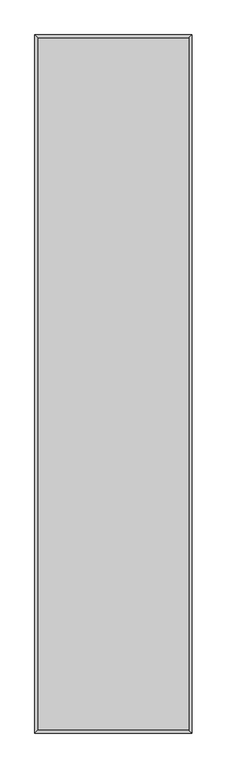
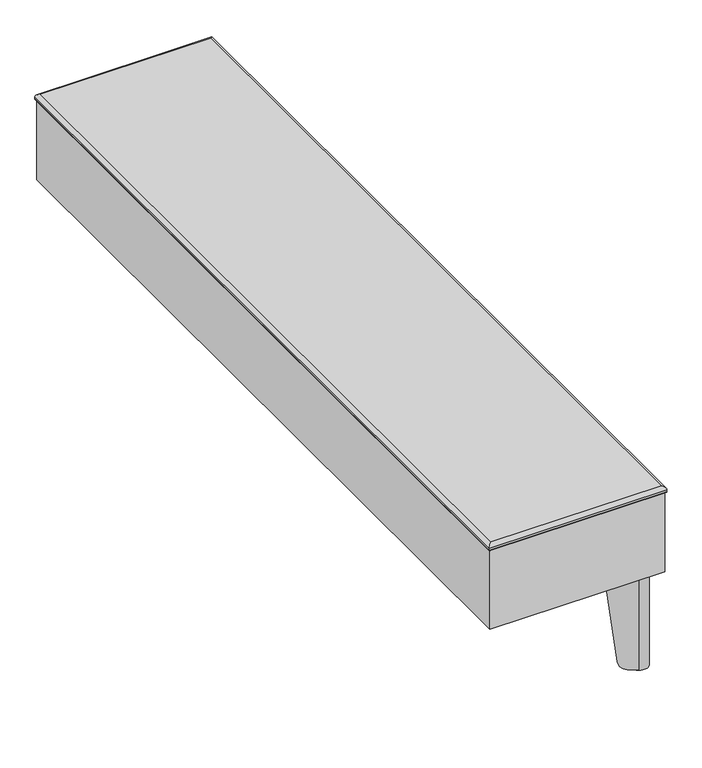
"""IFC4 building model written with IfcOpenShell, lengths in millimetres: furniture geometry, Stance_HC-Flora-Table_Straight : FAT135614E-S."""

from ifc_helpers import new_model, si_unit, point, frame, frame_2d, origin, origin_with_axes, place, context, project, spatial, polyline, circle_curve, ellipse_curve, trimmed, segment, composite_curve, outline, extrude, source, transform, mapped, element, save
from ifc_brep_helpers import plane_surface, cylinder_surface, revolved_surface, advanced_brep


def furniture_4275ec75(model_context):
    return source(origin(), model_context, "Body", "SolidModel", [
        advanced_brep(
        [(274.3401042, -102.8613619, 193.6877233), (306.2642107, -57.26919, 193.6877233), (285.6391871, -36.6441664, 193.6877233), (240.0470178, -68.568271, 193.6877233), (241.8906556, -71.2012484, 193.6877233), (287.4828248, -39.2771437, 193.6877233), (303.6312333, -55.4255523, 193.6877233), (271.7071268, -101.0177242, 193.6877233), (274.3401042, -102.8613619, 189.1419595), (303.6312333, -55.4255523, 3.1876992), (293.5105238, -69.8793673, 3.1876992), (284.3334277, -82.9855678, 17.1280233), (287.4828248, -39.2771437, 3.1876992), (259.9228092, -58.5749494, 17.1280233), (273.0290098, -49.3978533, 3.1876992), (240.0470178, -68.568271, 189.1419334), (285.6391871, -36.6441664, 3.1876992), (270.7211121, -47.0899556, 3.1876992), (257.6149115, -56.2670517, 17.1280233), (306.2642107, -57.26919, 3.1876992), (286.6413254, -85.2934656, 17.1280233), (295.8184215, -72.187265, 3.1876992)],
        [
            (0, 1),
            (1, 2, circle_curve(frame((294.1333442, -48.7750329, 193.6877233), z_axis=(0.0, 0.0, 1.0), x_axis=(-1.0, 0.0, 0.0)), 14.8090724)),
            (2, 3),
            (3, 4),
            (4, 5),
            (5, 6, circle_curve(frame((294.1333442, -48.7750329, 193.6877233), z_axis=(0.0, 0.0, -1.0), x_axis=(-1.0, 0.0, 0.0)), 11.5947965)),
            (6, 7),
            (7, 0),
            (7, 8),
            (8, 0),
            (6, 9),
            (9, 10),
            (10, 11, ellipse_curve(frame((293.5105238, -69.8793673, 19.0626992), z_axis=(-0.8191509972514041, 0.5735779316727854, 0.0), x_axis=(-0.5735779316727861, -0.8191509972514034, 0.0)), 16.1198923, 15.875)),
            (11, 7),
            (5, 12),
            (12, 9, circle_curve(frame((294.1333442, -48.7750329, 3.1876992), z_axis=(0.0, 0.0, -1.0), x_axis=(-1.0, 0.0, 0.0)), 11.5947965)),
            (4, 13),
            (13, 14, ellipse_curve(frame((273.0290098, -49.3978533, 19.0626992), z_axis=(0.5735779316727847, -0.8191509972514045, 0.0), x_axis=(0.8191509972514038, 0.5735779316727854, 0.0)), 16.1198923, 15.875)),
            (14, 12),
            (3, 15),
            (15, 4),
            (2, 16),
            (16, 17),
            (17, 18, ellipse_curve(frame((270.7211121, -47.0899556, 19.0626992), z_axis=(-0.5735779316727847, 0.8191509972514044, 0.0), x_axis=(0.8191509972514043, 0.573577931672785, 0.0)), 16.1198923, 15.875)),
            (18, 15),
            (1, 19),
            (19, 16, circle_curve(frame((294.1333442, -48.7750329, 3.1876992), z_axis=(0.0, 0.0, 1.0), x_axis=(-1.0, 0.0, 0.0)), 14.8090724)),
            (8, 20),
            (20, 21, ellipse_curve(frame((295.8184215, -72.187265, 19.0626992), z_axis=(0.8191509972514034, -0.5735779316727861, 0.0), x_axis=(-0.5735779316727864, -0.8191509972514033, 0.0)), 16.1198923, 15.875)),
            (21, 19),
            (18, 13),
            (11, 20),
            (21, 10),
            (14, 17),
        ],
        [
            plane_surface(frame((271.7071268, -101.0177242, 193.6877233), z_axis=(0.0, 0.0, 1.0000000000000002), x_axis=(-0.8191509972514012, 0.5735779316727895, 0.0))),
            plane_surface(frame((274.3401042, -102.8613619, 193.6877233), z_axis=(-0.5735779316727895, -0.8191509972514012, 0.0), x_axis=(0.0, 0.0, -1.0))),
            plane_surface(frame((271.7071268, -101.0177242, 193.6877233), z_axis=(-0.8191509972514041, 0.5735779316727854, 0.0), x_axis=(0.0, 0.0, -1.0))),
            revolved_surface(polyline([(282.53854770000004, -48.7750329, 3.1876992), (282.53854770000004, -48.7750329, 193.6877233)]), (294.1333442, -48.7750329, 0.0), (0.0, 0.0, -1.0)),
            plane_surface(frame((287.4828248, -39.2771437, 193.6877233), z_axis=(0.5735779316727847, -0.8191509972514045, 0.0), x_axis=(0.0, 0.0, -1.0))),
            plane_surface(frame((241.8906556, -71.2012484, 193.6877233), z_axis=(-0.8191509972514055, -0.5735779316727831, 0.0), x_axis=(0.0, 0.0, -1.0))),
            plane_surface(frame((240.0470178, -68.568271, 193.6877233), z_axis=(-0.5735779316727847, 0.8191509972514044, 0.0), x_axis=(0.0, 0.0, -1.0))),
            cylinder_surface(frame((294.1333442, -48.7750329, 0.0), z_axis=(0.0, 0.0, 1.0), x_axis=(-1.0, 0.0, 0.0)), 14.8090724),
            plane_surface(frame((306.2642107, -57.26919, 193.6877233), z_axis=(0.8191509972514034, -0.5735779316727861, 0.0), x_axis=(0.0, 0.0, -1.0))),
            plane_surface(frame((251.7311084, -50.3832485, 17.1280233), z_axis=(-0.7018361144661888, -0.7018361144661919, -0.12186934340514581), x_axis=(0.7071067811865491, -0.707106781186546, 0.0))),
            plane_surface(frame((284.2214639, -17.8928931, 3.1876992), z_axis=(0.0, 0.0, -1.0), x_axis=(0.707106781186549, -0.707106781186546, 0.0))),
            cylinder_surface(frame((303.6583998, -80.0272433, 19.0626992), z_axis=(0.7071067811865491, -0.707106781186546, 0.0), x_axis=(-0.707106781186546, -0.7071067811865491, 0.0)), 15.875),
        ],
        [
            (0, [[1, 2, 3, 4, 5, 6, 7, 8]]),
            (1, [[9, 10, -8]]),
            (2, [[11, 12, 13, 14, -7]]),
            (3, [[15, 16, -11, -6]]),
            (4, [[17, 18, 19, -15, -5]]),
            (5, [[20, 21, -4]]),
            (6, [[22, 23, 24, 25, -20, -3]]),
            (7, [[26, 27, -22, -2]]),
            (8, [[-10, 28, 29, 30, -26, -1]]),
            (9, [[-17, -21, -25, 31]]),
            (9, [[-28, -9, -14, 32]]),
            (10, [[-23, -27, -30, 33, -12, -16, -19, 34]]),
            (11, [[-13, -33, -29, -32]]),
            (11, [[-24, -34, -18, -31]]),
        ],
    ),
        extrude(outline(composite_curve([segment(trimmed(circle_curve(frame_2d((292.1, -50.8)), 11.1125), [point((303.2125, -50.8))], [point((280.9875, -50.8))], False, "CARTESIAN"), True, "CONTINUOUS"), segment(trimmed(circle_curve(frame_2d((292.1, -50.8)), 11.1125), [point((280.9875, -50.8))], [point((303.2125, -50.8))], False, "CARTESIAN"), True, "CONTINUOUS")], self_intersect=False)), origin_with_axes(), (0.0, 0.0, 1.0), 3.175),
        extrude(outline(composite_curve([segment(trimmed(circle_curve(frame_2d((295.4524523, -47.4559239)), 15.8749964), [point((294.3450687, -31.6195983))], [point((311.288778, -48.5633073))], False, "CARTESIAN"), True, "CONTINUOUS"), segment(polyline([(311.288778, -48.5633073), (304.2918062, -148.6247029), (274.4414324, -178.4750713), (190.4983323, -152.4100523), (164.4332978, -68.4669439), (194.2836699, -38.6165718), (294.3450687, -31.6195983)]), True, "CONTINUOUS")], self_intersect=False)), frame((0.0, 0.0, 193.6877233), z_axis=(0.0, 0.0, 1.0), x_axis=(1.0, 0.0, 0.0)), (0.0, 0.0, 1.0), 4.7751809),
        advanced_brep(
        [(274.3401042, -1344.9386381, 193.6877233), (271.7071268, -1346.7822758, 193.6877233), (303.6312333, -1392.3744477, 193.6877233), (287.4828248, -1408.5228563, 193.6877233), (241.8906556, -1376.5987516, 193.6877233), (240.0470178, -1379.231729, 193.6877233), (285.6391871, -1411.1558336, 193.6877233), (306.2642107, -1390.53081, 193.6877233), (274.3401042, -1344.9386381, 189.1419595), (284.3334277, -1364.8144322, 17.1280233), (293.5105238, -1377.9206327, 3.1876992), (303.6312333, -1392.3744477, 3.1876992), (287.4828248, -1408.5228563, 3.1876992), (273.0290098, -1398.4021467, 3.1876992), (259.9228092, -1389.2250506, 17.1280233), (240.0470178, -1379.231729, 189.1419334), (257.6149115, -1391.5329483, 17.1280233), (270.7211121, -1400.7100444, 3.1876992), (285.6391871, -1411.1558336, 3.1876992), (306.2642107, -1390.53081, 3.1876992), (295.8184215, -1375.612735, 3.1876992), (286.6413254, -1362.5065344, 17.1280233)],
        [
            (0, 1),
            (1, 2),
            (2, 3, circle_curve(frame((294.1333442, -1399.0249671, 193.6877233), z_axis=(0.0, 0.0, -1.0), x_axis=(-1.0, 0.0, 0.0)), 11.5947965)),
            (3, 4),
            (4, 5),
            (5, 6),
            (6, 7, circle_curve(frame((294.1333442, -1399.0249671, 193.6877233), z_axis=(0.0, 0.0, 1.0), x_axis=(-1.0, 0.0, 0.0)), 14.8090724)),
            (7, 0),
            (0, 8),
            (8, 1),
            (1, 9),
            (9, 10, ellipse_curve(frame((293.5105238, -1377.9206327, 19.0626992), z_axis=(-0.8191509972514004, -0.5735779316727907, 0.0), x_axis=(-0.5735779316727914, 0.8191509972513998, 0.0)), 16.1198923, 15.875)),
            (10, 11),
            (11, 2),
            (11, 12, circle_curve(frame((294.1333442, -1399.0249671, 3.1876992), z_axis=(0.0, 0.0, -1.0), x_axis=(-1.0, 0.0, 0.0)), 11.5947965)),
            (12, 3),
            (12, 13),
            (13, 14, ellipse_curve(frame((273.0290098, -1398.4021467, 19.0626992), z_axis=(0.5735779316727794, 0.8191509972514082, 0.0), x_axis=(0.8191509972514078, -0.5735779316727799, 0.0)), 16.1198923, 15.875)),
            (14, 4),
            (4, 15),
            (15, 5),
            (15, 16),
            (16, 17, ellipse_curve(frame((270.7211121, -1400.7100444, 19.0626992), z_axis=(-0.5735779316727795, -0.8191509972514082, 0.0), x_axis=(0.8191509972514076, -0.5735779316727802, 0.0)), 16.1198923, 15.875)),
            (17, 18),
            (18, 6),
            (18, 19, circle_curve(frame((294.1333442, -1399.0249671, 3.1876992), z_axis=(0.0, 0.0, 1.0), x_axis=(-1.0, 0.0, 0.0)), 14.8090724)),
            (19, 7),
            (19, 20),
            (20, 21, ellipse_curve(frame((295.8184215, -1375.612735, 19.0626992), z_axis=(0.8191509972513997, 0.5735779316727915, 0.0), x_axis=(-0.573577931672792, 0.8191509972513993, 0.0)), 16.1198923, 15.875)),
            (21, 8),
            (14, 16),
            (21, 9),
            (17, 13),
            (10, 20),
        ],
        [
            plane_surface(frame((271.7071268, -1346.7822758, 193.6877233), z_axis=(0.0, 0.0, 0.9999999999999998), x_axis=(-0.8191509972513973, -0.5735779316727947, 0.0))),
            plane_surface(frame((274.3401042, -1344.9386381, 193.6877233), z_axis=(-0.5735779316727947, 0.8191509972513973, 0.0), x_axis=(0.0, 0.0, -1.0))),
            plane_surface(frame((271.7071268, -1346.7822758, 193.6877233), z_axis=(-0.8191509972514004, -0.5735779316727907, 0.0), x_axis=(0.0, 0.0, -1.0))),
            revolved_surface(polyline([(282.53854770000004, -1399.0249671, 3.1876992), (282.53854770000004, -1399.0249671, 193.6877233)]), (294.1333442, -1399.0249671, 0.0), (0.0, 0.0, -1.0)),
            plane_surface(frame((287.4828248, -1408.5228563, 193.6877233), z_axis=(0.5735779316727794, 0.8191509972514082, 0.0), x_axis=(0.0, 0.0, -1.0))),
            plane_surface(frame((241.8906556, -1376.5987516, 193.6877233), z_axis=(-0.8191509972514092, 0.5735779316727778, 0.0), x_axis=(0.0, 0.0, -1.0))),
            plane_surface(frame((240.0470178, -1379.231729, 193.6877233), z_axis=(-0.5735779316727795, -0.8191509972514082, 0.0), x_axis=(0.0, 0.0, -1.0))),
            cylinder_surface(frame((294.1333442, -1399.0249671, 0.0), z_axis=(0.0, 0.0, 1.0), x_axis=(-1.0, 0.0, 0.0)), 14.8090724),
            plane_surface(frame((306.2642107, -1390.53081, 193.6877233), z_axis=(0.8191509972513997, 0.5735779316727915, 0.0), x_axis=(0.0, 0.0, -1.0))),
            plane_surface(frame((251.7311084, -1397.4167515, 17.1280233), z_axis=(-0.7018361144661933, 0.7018361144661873, -0.12186934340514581), x_axis=(0.7071067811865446, 0.7071067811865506, 0.0))),
            plane_surface(frame((284.2214639, -1429.9071069, 3.1876992), z_axis=(0.0, 0.0, -1.0), x_axis=(0.7071067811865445, 0.7071067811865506, 0.0))),
            cylinder_surface(frame((303.6583998, -1367.7727567, 19.0626992), z_axis=(0.7071067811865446, 0.7071067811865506, 0.0), x_axis=(-0.7071067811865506, 0.7071067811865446, 0.0)), 15.875),
        ],
        [
            (0, [[1, 2, 3, 4, 5, 6, 7, 8]]),
            (1, [[-1, 9, 10]]),
            (2, [[-2, 11, 12, 13, 14]]),
            (3, [[-3, -14, 15, 16]]),
            (4, [[-4, -16, 17, 18, 19]]),
            (5, [[-5, 20, 21]]),
            (6, [[-6, -21, 22, 23, 24, 25]]),
            (7, [[-7, -25, 26, 27]]),
            (8, [[-8, -27, 28, 29, 30, -9]]),
            (9, [[31, -22, -20, -19]]),
            (9, [[32, -11, -10, -30]]),
            (10, [[33, -17, -15, -13, 34, -28, -26, -24]]),
            (11, [[-31, -18, -33, -23]]),
            (11, [[-32, -29, -34, -12]]),
        ],
    ),
        extrude(outline(composite_curve([segment(trimmed(circle_curve(frame_2d((292.1, -1397.0)), 11.1125), [point((303.2125, -1397.0))], [point((280.9875, -1397.0))], False, "CARTESIAN"), True, "CONTINUOUS"), segment(trimmed(circle_curve(frame_2d((292.1, -1397.0)), 11.1125), [point((280.9875, -1397.0))], [point((303.2125, -1397.0))], False, "CARTESIAN"), True, "CONTINUOUS")], self_intersect=False)), origin_with_axes(), (0.0, 0.0, 1.0), 3.175),
        extrude(outline(composite_curve([segment(polyline([(294.3450687, -1416.1804017), (194.2836699, -1409.1834282), (164.4332978, -1379.3330561), (190.4983323, -1295.3899477), (274.4414324, -1269.3249287), (304.2918062, -1299.1752971), (311.288778, -1399.2366927)]), True, "CONTINUOUS"), segment(trimmed(circle_curve(frame_2d((295.4524523, -1400.3440761)), 15.8749964), [point((311.288778, -1399.2366927))], [point((294.3450687, -1416.1804017))], False, "CARTESIAN"), True, "CONTINUOUS")], self_intersect=False)), frame((0.0, 0.0, 193.6877233), z_axis=(0.0, 0.0, 1.0), x_axis=(1.0, 0.0, 0.0)), (0.0, 0.0, 1.0), 4.7751809),
        advanced_brep(
        [(313.5376045, -1432.7251045, 361.2210174), (313.5376045, -15.0748955, 361.2210174), (3.9623955, -15.0748955, 361.2210174), (3.9623955, -1432.7251045, 361.2210174), (318.087372, -10.525128, 349.249991), (318.087372, -1437.274872, 349.249991), (-0.587372, -1437.274872, 349.249991), (-0.587372, -10.525128, 349.249991), (319.8876045, -8.7248955, 354.888882), (319.8876045, -1439.0751045, 354.888882), (319.8876045, -1439.0751045, 350.9190376), (319.8876045, -8.7248955, 350.9190376), (-2.3876045, -1439.0751045, 354.888882), (-2.3876045, -1439.0751045, 350.9190376), (-2.3876045, -8.7248955, 354.888882), (-2.3876045, -8.7248955, 350.9190376)],
        [
            (0, 1),
            (1, 2),
            (2, 3),
            (3, 0),
            (4, 5),
            (5, 6),
            (6, 7),
            (7, 4),
            (8, 1, ellipse_curve(frame((313.5376045, -15.0748955, 354.8709922), z_axis=(0.7071067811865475, -0.7071067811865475, 0.0), x_axis=(0.7071067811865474, 0.7071067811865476, 0.0)), 8.9802918, 6.3500252)),
            (0, 9, ellipse_curve(frame((313.5376045, -1432.7251045, 354.8709922), z_axis=(0.7071067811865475, 0.7071067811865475, 0.0), x_axis=(-0.7071067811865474, 0.7071067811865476, 0.0)), 8.9802918, 6.3500252)),
            (9, 8),
            (9, 10),
            (10, 11),
            (11, 8),
            (10, 5, ellipse_curve(frame((318.2137781, -1437.4012781, 350.9190376), z_axis=(0.7071067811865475, 0.7071067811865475, 0.0), x_axis=(-0.7071067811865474, 0.7071067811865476, 0.0)), 2.3671481, 1.6738265)),
            (4, 11, ellipse_curve(frame((318.2137781, -10.3987219, 350.9190376), z_axis=(0.7071067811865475, -0.7071067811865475, 0.0), x_axis=(0.7071067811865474, 0.7071067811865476, 0.0)), 2.3671481, 1.6738265)),
            (3, 12, ellipse_curve(frame((3.9623955, -1432.7251045, 354.8709922), z_axis=(0.7071067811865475, -0.7071067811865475, 0.0), x_axis=(0.7071067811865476, 0.7071067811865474, 0.0)), 8.9802918, 6.3500252)),
            (12, 9),
            (12, 13),
            (13, 10),
            (13, 6, ellipse_curve(frame((-0.7137781, -1437.4012781, 350.9190376), z_axis=(0.7071067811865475, -0.7071067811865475, 0.0), x_axis=(0.7071067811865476, 0.7071067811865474, 0.0)), 2.3671481, 1.6738265)),
            (2, 14, ellipse_curve(frame((3.9623955, -15.0748955, 354.8709922), z_axis=(-0.7071067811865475, -0.7071067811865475, 0.0), x_axis=(0.7071067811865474, -0.7071067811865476, 0.0)), 8.9802918, 6.3500252)),
            (14, 12),
            (14, 15),
            (15, 13),
            (15, 7, ellipse_curve(frame((-0.7137781, -10.3987219, 350.9190376), z_axis=(-0.7071067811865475, -0.7071067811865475, 0.0), x_axis=(0.7071067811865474, -0.7071067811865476, 0.0)), 2.3671481, 1.6738265)),
            (8, 14),
            (11, 15),
        ],
        [
            plane_surface(frame((3.9623955, -15.0748955, 361.2210174), z_axis=(0.0, 0.0, 1.0), x_axis=(0.0, -1.0, 0.0))),
            plane_surface(frame((3.9623955, -15.0748955, 349.249991), z_axis=(0.0, 0.0, -1.0), x_axis=(0.0, 1.0, 0.0))),
            cylinder_surface(frame((313.5376045, -11.1125, 354.8709922), z_axis=(0.0, 1.0, 0.0), x_axis=(1.0, 0.0, 0.0)), 6.3500252),
            plane_surface(frame((319.8876045, -8.7248955, 354.888882), z_axis=(1.0, 0.0, 0.0), x_axis=(0.0, -1.0, 0.0))),
            cylinder_surface(frame((318.2137781, -11.1125, 350.9190376), z_axis=(0.0, 1.0, 0.0), x_axis=(1.0, 0.0, 0.0)), 1.6738265),
            cylinder_surface(frame((317.5, -1432.7251045, 354.8709922), z_axis=(1.0, 0.0, 0.0), x_axis=(0.0, -1.0, 0.0)), 6.3500252),
            plane_surface(frame((319.8876045, -1439.0751045, 354.888882), z_axis=(0.0, -1.0, 0.0), x_axis=(-1.0, 0.0, 0.0))),
            cylinder_surface(frame((317.5, -1437.4012781, 350.9190376), z_axis=(1.0, 0.0, 0.0), x_axis=(0.0, -1.0, 0.0)), 1.6738265),
            cylinder_surface(frame((3.9623955, -1436.6875, 354.8709922), z_axis=(0.0, -1.0, 0.0), x_axis=(-1.0, 0.0, 0.0)), 6.3500252),
            plane_surface(frame((-2.3876045, -1439.0751045, 354.888882), z_axis=(-1.0, 0.0, 0.0), x_axis=(0.0, 1.0, 0.0))),
            cylinder_surface(frame((-0.7137781, -1436.6875, 350.9190376), z_axis=(0.0, -1.0, 0.0), x_axis=(-1.0, 0.0, 0.0)), 1.6738265),
            cylinder_surface(frame((0.0, -15.0748955, 354.8709922), z_axis=(-1.0, 0.0, 0.0), x_axis=(0.0, 1.0, 0.0)), 6.3500252),
            plane_surface(frame((-2.3876045, -8.7248955, 354.888882), z_axis=(0.0, 1.0, 0.0), x_axis=(1.0, 0.0, 0.0))),
            cylinder_surface(frame((0.0, -10.3987219, 350.9190376), z_axis=(-1.0, 0.0, 0.0), x_axis=(0.0, 1.0, 0.0)), 1.6738265),
        ],
        [
            (0, [[1, 2, 3, 4]]),
            (1, [[5, 6, 7, 8]]),
            (2, [[9, -1, 10, 11]]),
            (3, [[-11, 12, 13, 14]]),
            (4, [[-13, 15, -5, 16]]),
            (5, [[-10, -4, 17, 18]]),
            (6, [[-12, -18, 19, 20]]),
            (7, [[-15, -20, 21, -6]]),
            (8, [[-17, -3, 22, 23]]),
            (9, [[-19, -23, 24, 25]]),
            (10, [[-21, -25, 26, -7]]),
            (11, [[-9, 27, -22, -2]]),
            (12, [[-14, 28, -24, -27]]),
            (13, [[-16, -8, -26, -28]]),
        ],
    ),
        extrude(outline(polyline([(317.5, -11.1125), (317.5, -1436.6875), (0.0, -1436.6875), (0.0, -11.1125), (317.5, -11.1125)])), frame((0.0, 0.0, 196.85), z_axis=(0.0, 0.0, 1.0), x_axis=(1.0, 0.0, 0.0)), (0.0, 0.0, 1.0), 152.399991),
    ])


if __name__ == "__main__":
    model = new_model("IFC4")
    model_context = context("Model", 3, world=origin())
    ifc_project = project(units=[si_unit("LENGTHUNIT", "METRE", prefix="MILLI")], contexts=[model_context])
    site = spatial("IfcSite", under=ifc_project)
    building = spatial("IfcBuilding", under=site)
    placement = place(None, origin())
    furniture_shape = furniture_4275ec75(model_context)
    element("IfcFurniture", 1, ObjectType="Stance_HC-Flora-Table_Straight : FAT135614E-S", at=placement, inside=building, context=model_context, shape_type="MappedRepresentation", body=[
        mapped(furniture_shape, transform((0.0, 0.0, 0.0), x_axis=(1.0, 0.0, 0.0), y_axis=(0.0, 1.0, 0.0), z_axis=(0.0, 0.0, 1.0))),
    ])
    save(model, "model.ifc")
